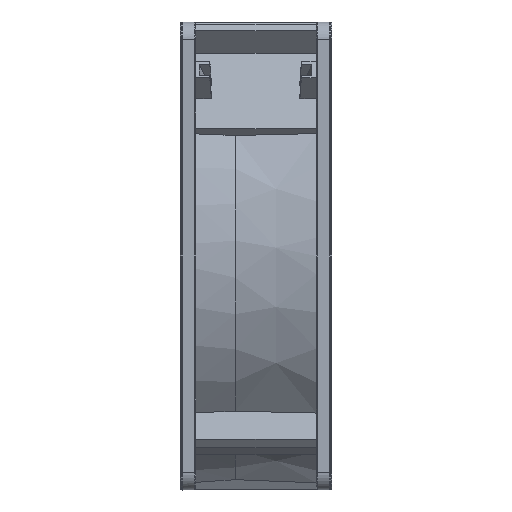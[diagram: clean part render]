
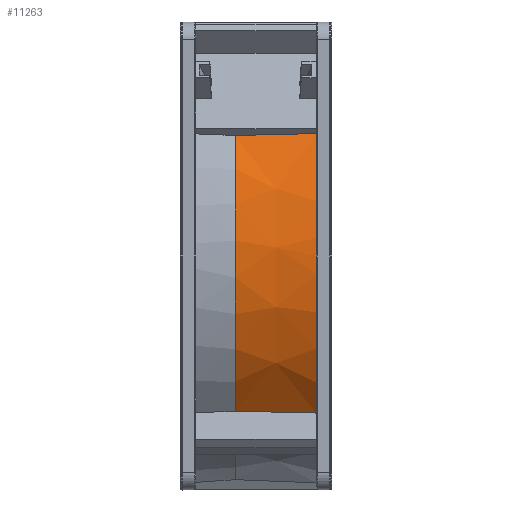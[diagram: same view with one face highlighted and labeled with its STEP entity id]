
A CAD part, left-side view. The second image highlights one B-rep face of the part: STEP entity #11263.
In plain terms, the highlighted conical face has half-angle 1.852 degrees and reference radius 58.716 mm.
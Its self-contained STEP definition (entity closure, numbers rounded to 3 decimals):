
#213 = VERTEX_POINT ( 'NONE', #4609 ) ;
#257 = DIRECTION ( 'NONE',  ( 0., 0., -1. ) ) ;
#467 = CARTESIAN_POINT ( 'NONE',  ( -59.28, 25.939, 3.514 ) ) ;
#583 = CARTESIAN_POINT ( 'NONE',  ( -59.2, 25.95, -4.666 ) ) ;
#602 = CARTESIAN_POINT ( 'NONE',  ( -59.315, 25.927, 2.865 ) ) ;
#728 = B_SPLINE_CURVE_WITH_KNOTS ( 'NONE', 3,
 ( #583, #3553, #8392, #12127, #11224, #2401, #3425, #11284, #3302, #6396, #1631, #7500, #11418, #1490, #10305, #2588, #6341 ),
 .UNSPECIFIED., .F., .F.,
 ( 4, 2, 2, 1, 1, 1, 1, 1, 2, 2, 4 ),
 ( 0., 0.25, 0.375, 0.437, 0.469, 0.484, 0.492, 0.496, 0.498, 0.5, 1. ),
 .UNSPECIFIED. ) ;
#732 = CARTESIAN_POINT ( 'NONE',  ( -50.57, 25.95, 31.131 ) ) ;
#744 = CARTESIAN_POINT ( 'NONE',  ( -59.386, 25.886, 0. ) ) ;
#844 = EDGE_LOOP ( 'NONE', ( #5115, #2652, #5904, #9169, #1584, #9653, #3205 ) ) ;
#1302 = CIRCLE ( 'NONE', #2529, 58.716 ) ;
#1360 = DIRECTION ( 'NONE',  ( 0., 0., 1. ) ) ;
#1409 = CARTESIAN_POINT ( 'NONE',  ( -50.246, 39.719, 30.807 ) ) ;
#1443 = CARTESIAN_POINT ( 'NONE',  ( -59.281, 25.939, 3.5 ) ) ;
#1490 = CARTESIAN_POINT ( 'NONE',  ( -59.343, 25.913, -2.237 ) ) ;
#1584 = ORIENTED_EDGE ( 'NONE', *, *, #10418, .T. ) ;
#1587 = CARTESIAN_POINT ( 'NONE',  ( -59.289, 25.936, 3.358 ) ) ;
#1631 = CARTESIAN_POINT ( 'NONE',  ( -59.341, 25.914, -2.266 ) ) ;
#1713 = CARTESIAN_POINT ( 'NONE',  ( -59.378, 25.892, 0.947 ) ) ;
#1884 = EDGE_CURVE ( 'NONE', #213, #6242, #5158, .T. ) ;
#2401 = CARTESIAN_POINT ( 'NONE',  ( -59.312, 25.927, -2.931 ) ) ;
#2417 = CARTESIAN_POINT ( 'NONE',  ( -59.347, 25.911, 2.111 ) ) ;
#2470 = CARTESIAN_POINT ( 'NONE',  ( -59.279, 25.939, 3.524 ) ) ;
#2529 = AXIS2_PLACEMENT_3D ( 'NONE', #11333, #11276, #1360 ) ;
#2534 = CARTESIAN_POINT ( 'NONE',  ( -59.36, 25.904, 1.745 ) ) ;
#2588 = CARTESIAN_POINT ( 'NONE',  ( -59.386, 25.886, -0.596 ) ) ;
#2652 = ORIENTED_EDGE ( 'NONE', *, *, #1884, .F. ) ;
#2753 = EDGE_CURVE ( 'NONE', #6242, #8275, #4411, .T. ) ;
#3111 = DIRECTION ( 'NONE',  ( 0., 0., -1. ) ) ;
#3205 = ORIENTED_EDGE ( 'NONE', *, *, #10918, .T. ) ;
#3302 = CARTESIAN_POINT ( 'NONE',  ( -59.338, 25.916, -2.363 ) ) ;
#3425 = CARTESIAN_POINT ( 'NONE',  ( -59.322, 25.923, -2.734 ) ) ;
#3466 = CARTESIAN_POINT ( 'NONE',  ( -50.408, 32.835, 30.969 ) ) ;
#3505 = CARTESIAN_POINT ( 'NONE',  ( -59.369, 25.898, 1.411 ) ) ;
#3553 = CARTESIAN_POINT ( 'NONE',  ( -59.217, 25.95, -4.451 ) ) ;
#3573 = CARTESIAN_POINT ( 'NONE',  ( -59.385, 25.886, 0.325 ) ) ;
#3594 = AXIS2_PLACEMENT_3D ( 'NONE', #10065, #4210, #3111 ) ;
#3811 = AXIS2_PLACEMENT_3D ( 'NONE', #11223, #6210, #257 ) ;
#3905 = VERTEX_POINT ( 'NONE', #5753 ) ;
#4024 = FACE_OUTER_BOUND ( 'NONE', #844, .T. ) ;
#4210 = DIRECTION ( 'NONE',  ( 0., -1., 0. ) ) ;
#4411 = CIRCLE ( 'NONE', #3811, 59.384 ) ;
#4413 = CARTESIAN_POINT ( 'NONE',  ( -59.2, 25.95, 4.666 ) ) ;
#4609 = CARTESIAN_POINT ( 'NONE',  ( -50.084, 46.604, 30.646 ) ) ;
#4691 = CARTESIAN_POINT ( 'NONE',  ( -59.377, 25.893, 1.018 ) ) ;
#5115 = ORIENTED_EDGE ( 'NONE', *, *, #2753, .F. ) ;
#5158 = B_SPLINE_CURVE_WITH_KNOTS ( 'NONE', 3,
 ( #9406, #1409, #3466, #6257 ),
 .UNSPECIFIED., .F., .F.,
 ( 4, 4 ),
 ( 0., 1. ),
 .UNSPECIFIED. ) ;
#5418 = CARTESIAN_POINT ( 'NONE',  ( -43.637, 39.719, -39.617 ) ) ;
#5454 = CARTESIAN_POINT ( 'NONE',  ( -59.3, 25.933, 3.153 ) ) ;
#5526 = CARTESIAN_POINT ( 'NONE',  ( -59.381, 25.889, 0.718 ) ) ;
#5603 = DIRECTION ( 'NONE',  ( 0., 1., 0. ) ) ;
#5699 = CARTESIAN_POINT ( 'NONE',  ( -59.386, 25.886, 0. ) ) ;
#5753 = CARTESIAN_POINT ( 'NONE',  ( -59.2, 25.95, -4.666 ) ) ;
#5904 = ORIENTED_EDGE ( 'NONE', *, *, #12094, .F. ) ;
#6210 = DIRECTION ( 'NONE',  ( 0., -1., 0. ) ) ;
#6242 = VERTEX_POINT ( 'NONE', #732 ) ;
#6257 = CARTESIAN_POINT ( 'NONE',  ( -50.57, 25.95, 31.131 ) ) ;
#6309 = VERTEX_POINT ( 'NONE', #7646 ) ;
#6341 = CARTESIAN_POINT ( 'NONE',  ( -59.386, 25.886, 0. ) ) ;
#6357 = CARTESIAN_POINT ( 'NONE',  ( -59.343, 25.914, 2.24 ) ) ;
#6396 = CARTESIAN_POINT ( 'NONE',  ( -59.34, 25.915, -2.298 ) ) ;
#6484 = CARTESIAN_POINT ( 'NONE',  ( -59.354, 25.908, 1.921 ) ) ;
#7169 = B_SPLINE_CURVE_WITH_KNOTS ( 'NONE', 3,
 ( #744, #11364, #3573, #7388, #5526, #10528, #1713, #9574, #4691, #11244, #3505, #2534, #6484, #2417, #6357, #10266, #9440, #602, #5454, #8474, #1587, #12271, #11442, #1443, #467, #10467, #11299, #2470, #9381, #10403, #4413 ),
 .UNSPECIFIED., .F., .F.,
 ( 4, 2, 1, 1, 2, 2, 2, 1, 2, 2, 2, 2, 1, 1, 1, 1, 2, 2, 4 ),
 ( 0., 0.125, 0.188, 0.219, 0.234, 0.25, 0.375, 0.438, 0.469, 0.5, 0.625, 0.688, 0.719, 0.734, 0.742, 0.746, 0.748, 0.75, 1. ),
 .UNSPECIFIED. ) ;
#7245 = CARTESIAN_POINT ( 'NONE',  ( -43.48, 46.604, -39.459 ) ) ;
#7388 = CARTESIAN_POINT ( 'NONE',  ( -59.383, 25.888, 0.585 ) ) ;
#7485 = CARTESIAN_POINT ( 'NONE',  ( -43.795, 32.835, -39.774 ) ) ;
#7500 = CARTESIAN_POINT ( 'NONE',  ( -59.342, 25.914, -2.252 ) ) ;
#7646 = CARTESIAN_POINT ( 'NONE',  ( -43.953, 25.95, -39.932 ) ) ;
#7738 = CONICAL_SURFACE ( 'NONE', #3594, 58.716, 0.032 ) ;
#8275 = VERTEX_POINT ( 'NONE', #9036 ) ;
#8372 = B_SPLINE_CURVE_WITH_KNOTS ( 'NONE', 3,
 ( #8382, #7485, #5418, #11212 ),
 .UNSPECIFIED., .F., .F.,
 ( 4, 4 ),
 ( 0., 1. ),
 .UNSPECIFIED. ) ;
#8382 = CARTESIAN_POINT ( 'NONE',  ( -43.953, 25.95, -39.932 ) ) ;
#8392 = CARTESIAN_POINT ( 'NONE',  ( -59.24, 25.947, -4.141 ) ) ;
#8474 = CARTESIAN_POINT ( 'NONE',  ( -59.296, 25.934, 3.24 ) ) ;
#8516 = VERTEX_POINT ( 'NONE', #5699 ) ;
#8629 = DIRECTION ( 'NONE',  ( 0., 0., -1. ) ) ;
#8735 = AXIS2_PLACEMENT_3D ( 'NONE', #11459, #5603, #8629 ) ;
#9036 = CARTESIAN_POINT ( 'NONE',  ( -59.2, 25.95, 4.666 ) ) ;
#9169 = ORIENTED_EDGE ( 'NONE', *, *, #12263, .F. ) ;
#9381 = CARTESIAN_POINT ( 'NONE',  ( -59.253, 25.946, 3.96 ) ) ;
#9406 = CARTESIAN_POINT ( 'NONE',  ( -50.084, 46.604, 30.646 ) ) ;
#9440 = CARTESIAN_POINT ( 'NONE',  ( -59.326, 25.922, 2.637 ) ) ;
#9574 = CARTESIAN_POINT ( 'NONE',  ( -59.377, 25.892, 0.993 ) ) ;
#9653 = ORIENTED_EDGE ( 'NONE', *, *, #10051, .T. ) ;
#10051 = EDGE_CURVE ( 'NONE', #3905, #8516, #728, .T. ) ;
#10065 = CARTESIAN_POINT ( 'NONE',  ( 0., 46.604, 0. ) ) ;
#10266 = CARTESIAN_POINT ( 'NONE',  ( -59.34, 25.915, 2.308 ) ) ;
#10305 = CARTESIAN_POINT ( 'NONE',  ( -59.377, 25.895, -1.341 ) ) ;
#10403 = CARTESIAN_POINT ( 'NONE',  ( -59.226, 25.95, 4.34 ) ) ;
#10418 = EDGE_CURVE ( 'NONE', #6309, #3905, #11624, .T. ) ;
#10467 = CARTESIAN_POINT ( 'NONE',  ( -59.28, 25.939, 3.519 ) ) ;
#10528 = CARTESIAN_POINT ( 'NONE',  ( -59.379, 25.891, 0.877 ) ) ;
#10918 = EDGE_CURVE ( 'NONE', #8516, #8275, #7169, .T. ) ;
#11212 = CARTESIAN_POINT ( 'NONE',  ( -43.48, 46.604, -39.459 ) ) ;
#11223 = CARTESIAN_POINT ( 'NONE',  ( 0., 25.95, 0. ) ) ;
#11224 = CARTESIAN_POINT ( 'NONE',  ( -59.292, 25.934, -3.307 ) ) ;
#11233 = VERTEX_POINT ( 'NONE', #7245 ) ;
#11244 = CARTESIAN_POINT ( 'NONE',  ( -59.373, 25.895, 1.213 ) ) ;
#11263 = ADVANCED_FACE ( 'NONE', ( #4024 ), #7738, .T. ) ;
#11276 = DIRECTION ( 'NONE',  ( 0., 1., 0. ) ) ;
#11284 = CARTESIAN_POINT ( 'NONE',  ( -59.332, 25.918, -2.489 ) ) ;
#11299 = CARTESIAN_POINT ( 'NONE',  ( -59.279, 25.939, 3.523 ) ) ;
#11333 = CARTESIAN_POINT ( 'NONE',  ( 0., 46.604, 0. ) ) ;
#11364 = CARTESIAN_POINT ( 'NONE',  ( -59.386, 25.886, 0.159 ) ) ;
#11418 = CARTESIAN_POINT ( 'NONE',  ( -59.342, 25.913, -2.243 ) ) ;
#11442 = CARTESIAN_POINT ( 'NONE',  ( -59.282, 25.938, 3.472 ) ) ;
#11459 = CARTESIAN_POINT ( 'NONE',  ( 0., 25.95, 0. ) ) ;
#11624 = CIRCLE ( 'NONE', #8735, 59.384 ) ;
#12094 = EDGE_CURVE ( 'NONE', #11233, #213, #1302, .T. ) ;
#12127 = CARTESIAN_POINT ( 'NONE',  ( -59.279, 25.938, -3.533 ) ) ;
#12263 = EDGE_CURVE ( 'NONE', #6309, #11233, #8372, .T. ) ;
#12271 = CARTESIAN_POINT ( 'NONE',  ( -59.286, 25.937, 3.413 ) ) ;
